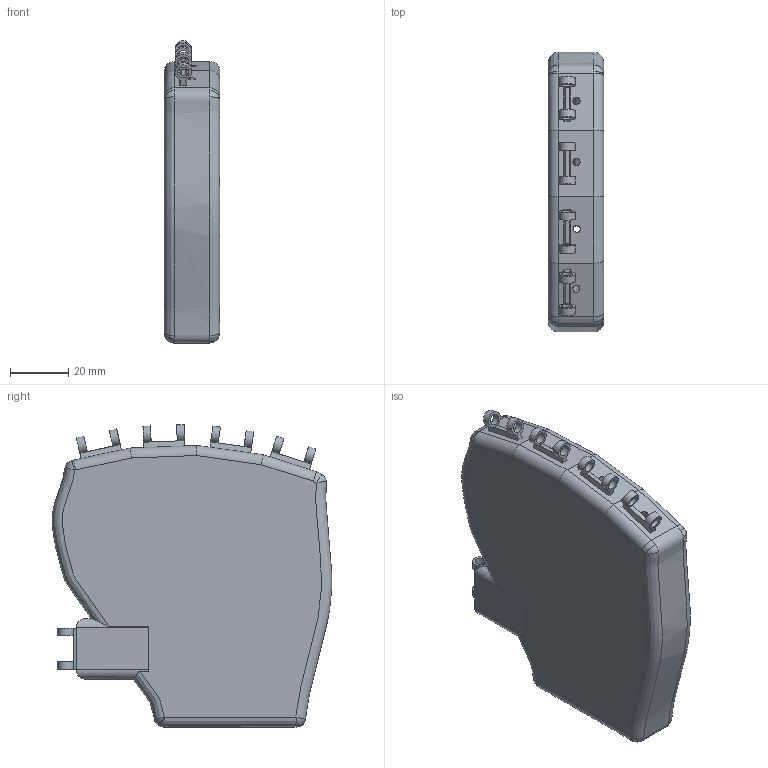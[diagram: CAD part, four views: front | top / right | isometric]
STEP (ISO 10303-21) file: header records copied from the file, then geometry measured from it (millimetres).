
FILE_DESCRIPTION(/* description */ ('STEP AP242 Edition 2','CAx-IF Rec.Pracs.---Representation and Presentation of Product Manufacturing Information (PMI)---4.0---2014-10-13','CAx-IF Rec.Pracs.---3D Tessellated Geometry---0.4---2014-09-14','2;1','CAx-IF Rec.Pracs.---User Defined Attributes---1.5---2016-08-15'),/* implementation_level */ '2;1');
FILE_NAME(/* name */ 'Assembly 1 - Palm',/* time_stamp */ '2026-06-19T18:21:07Z',/* author */ (''),/* organization */ (''),/* preprocessor_version */ 'ST-DEVELOPER v20',/* originating_system */ 'ONSHAPE BY PTC INC, 1.216',/* authorisation */ ' ');
FILE_SCHEMA (('AP242_MANAGED_MODEL_BASED_3D_ENGINEERING_MIM_LF { 1 0 10303 442 3 1 4 }'));
Length unit declared in the file: metre
Products named in the file (1): Palm
Bounding box: 19.16 x 96.34 x 104.27 mm (x, y, z)
Surface area: 25978.9 mm2 (no closed solid volume)
Topology: 0 solids, 1 shells, 122 faces, 319 edges, 198 vertices
Faces by surface type: plane 54, cylinder 35, bspline 33
Full cylindrical faces by diameter (mm): 2.961 x4, 3.865 x10
Entity records: 13440 total; most frequent: CARTESIAN_POINT 10826, ORIENTED_EDGE 550, DIRECTION 424, EDGE_CURVE 277, VERTEX_POINT 188, EDGE_LOOP 186, FACE_BOUND 186, AXIS2_PLACEMENT_3D 154
